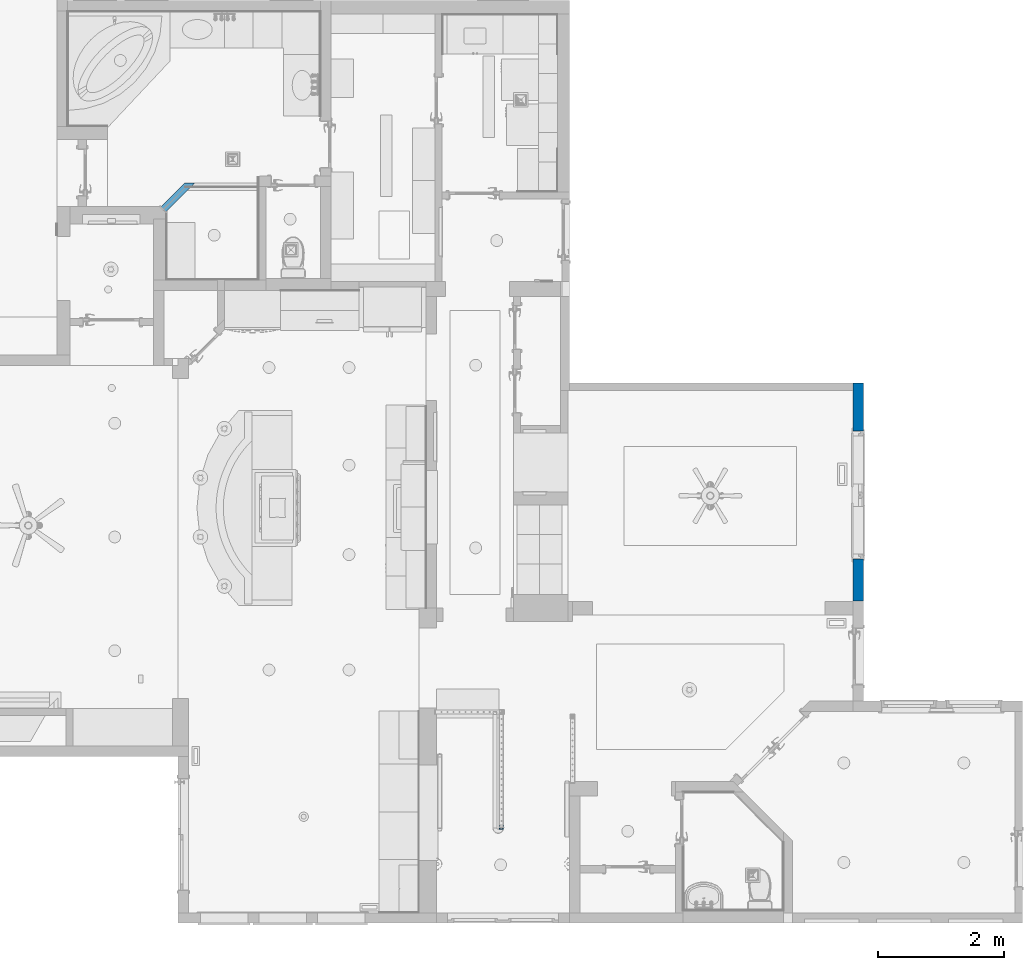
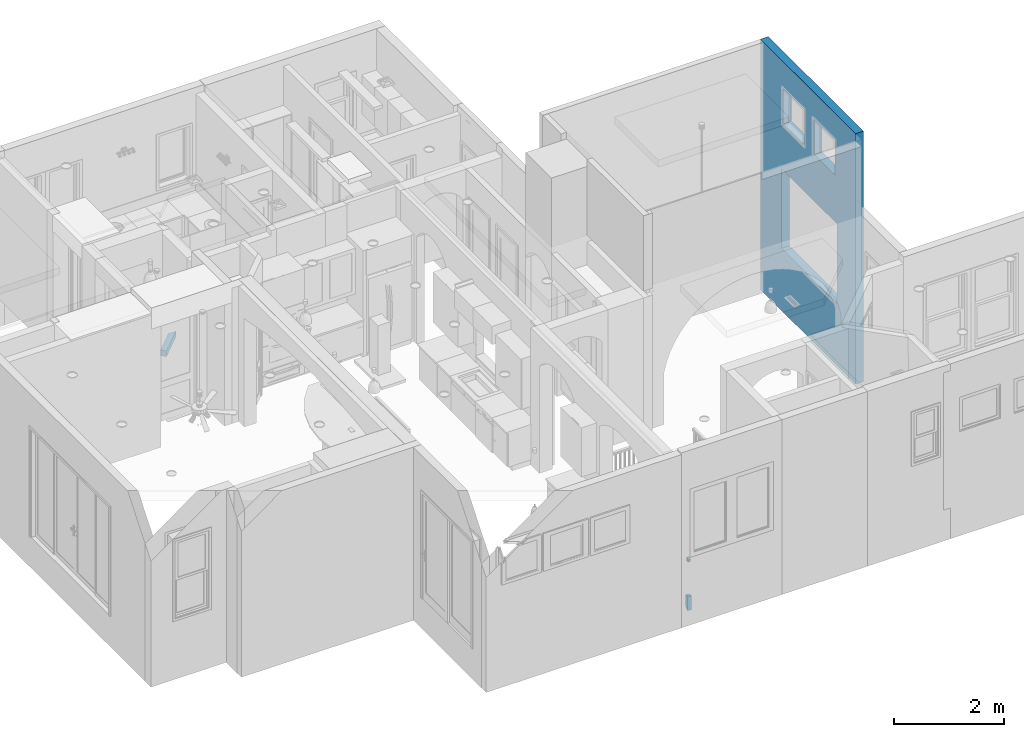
# One storey, part 10 of 77: 2 walls, 1 building element part, 1 element without a shape of its own.
"""IFC2X3 building model written with IfcOpenShell, lengths in inches."""

from ifc_helpers import new_model, entity, si_unit, converted_unit, derived_unit, money_unit, direction, frame, origin_with_axes, place, context, subcontext, project, spatial, faceted_brep, material, type_object, element, aggregate, save


model = new_model("IFC2X3")

# Units and contexts
model_context = context("Model", 3, precision=0.000393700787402, world=origin_with_axes(), true_north=direction((0.0, 1.0)))
body_context = subcontext(model_context, "Body", "Model", "MODEL_VIEW")
ifc_project = project(units=[converted_unit("LENGTHUNIT", "INCH", entity("IfcPositiveLengthMeasure", 0.0254), si_unit("LENGTHUNIT", "METRE"), dimensions=[1, 0, 0, 0, 0, 0, 0]), converted_unit("AREAUNIT", "SQUARE_FOOT", entity("IfcPositiveLengthMeasure", 0.09290304), si_unit("AREAUNIT", "SQUARE_METRE"), dimensions=[2, 0, 0, 0, 0, 0, 0]), si_unit("PLANEANGLEUNIT", "RADIAN"), si_unit("SOLIDANGLEUNIT", "STERADIAN"), money_unit("USD"), converted_unit("TIMEUNIT", "Year", entity("IfcTimeMeasure", 31556926.0), si_unit("TIMEUNIT", "SECOND"), dimensions=[0, 0, 1, 0, 0, 0, 0]), si_unit("MASSUNIT", "GRAM", prefix="KILO"), si_unit("THERMODYNAMICTEMPERATUREUNIT", "DEGREE_CELSIUS"), si_unit("LUMINOUSINTENSITYUNIT", "LUMEN"), si_unit("ENERGYUNIT", "JOULE", prefix="MEGA"), derived_unit("THERMALCONDUCTANCEUNIT", [(si_unit("POWERUNIT", "WATT"), 1), (si_unit("LENGTHUNIT", "METRE"), -1), (si_unit("THERMODYNAMICTEMPERATUREUNIT", "KELVIN"), -1)]), derived_unit("SPECIFICHEATCAPACITYUNIT", [(si_unit("ENERGYUNIT", "JOULE"), 1), (si_unit("MASSUNIT", "GRAM", prefix="KILO"), -1), (si_unit("THERMODYNAMICTEMPERATUREUNIT", "KELVIN"), -1)]), derived_unit("MASSDENSITYUNIT", [(si_unit("MASSUNIT", "GRAM", prefix="KILO"), 1), (si_unit("VOLUMEUNIT", "CUBIC_METRE"), -1)])], contexts=[model_context])

# Site, building, storey
site_placement = place(None, origin_with_axes())
site = spatial("IfcSite", under=ifc_project, at=site_placement, Name="Site", CompositionType="ELEMENT")
building_placement = place(site_placement, origin_with_axes())
building = spatial("IfcBuilding", under=site, at=building_placement, Name="Building", CompositionType="ELEMENT")
storey_placement = place(building_placement, frame((0.0, 0.0, 127.952755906), z_axis=(0.0, 0.0, 1.0), x_axis=(1.0, 0.0, 0.0)))
storey = spatial("IfcBuildingStorey", under=building, at=storey_placement, Name="Second Floor", CompositionType="ELEMENT", Elevation=127.953)

# Walls
ifc_material_1 = material(Name="Generic - Structural")
wall_type_1 = type_object("IfcWallType", Name="Generic Wall 6.5\" 165", PredefinedType="NOTDEFINED")
wall_1_placement = place(storey_placement, frame((904.223659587, 345.969115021, -26.968503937), z_axis=(0.0, 0.0, 1.0), x_axis=(-4.00995822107e-05, -0.999999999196, 0.0)))
element("IfcWall", 1, at=wall_1_placement, inside=storey, type_object=wall_type_1, material=ifc_material_1, Name="SW - 093", context=body_context, shape_type="Brep", body=[
    faceted_brep([(131.832336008, 0.0, 152.952755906), (131.832336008, 0.0, 212.992125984), (0.000319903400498, -0.000108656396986, 212.992125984), (0.000319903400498, -0.000108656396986, 218.897637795), (131.832336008, 0.0, 218.897637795), (131.832336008, 0.0, 219.094488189), (-4.52740614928, 0.0, 219.094488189), (-4.52740614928, 0.0, 0.0), (131.832336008, 0.0, 0.0), (25.5709370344, 0.0, 124.015748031), (105.492196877, 0.0, 124.015748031), (105.492196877, 0.0, 54.3307086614), (25.5709370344, 0.0, 54.3307086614), (28.5715757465, 0.0, 164.960629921), (28.5715757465, 0.0, 195.669291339), (58.492835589, 0.0, 195.669291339), (58.492835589, 0.0, 164.960629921), (102.482180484, -0.000108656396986, 164.960629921), (72.560920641, -0.000108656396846, 164.960629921), (72.560920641, -0.000108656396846, 195.669291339), (102.482180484, -0.000108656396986, 195.669291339), (131.832336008, 0.00196680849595, 218.897637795), (131.832336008, 0.00196680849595, 212.992125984), (131.832336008, 6.5, 152.952755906), (131.832336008, 6.5, 219.094488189), (-4.52755905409, 6.5, 219.094488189), (-4.52755905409, 6.5, 0.0), (131.831500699, 6.5, 0.0), (131.831500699, 6.5, 152.952755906), (25.5709370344, 6.5, 124.015748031), (105.492196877, 6.5, 124.015748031), (105.492196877, 6.5, 54.3307086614), (25.5709370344, 6.5, 54.3307086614), (28.5715757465, 6.5, 195.669291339), (28.5715757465, 6.5, 164.960629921), (58.492835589, 6.5, 195.669291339), (58.492835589, 6.5, 164.960629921), (102.482180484, 6.5, 164.960629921), (72.560920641, 6.5, 164.960629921), (72.560920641, 6.5, 195.669291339), (102.482180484, 6.5, 195.669291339)], [[[0, 1, 2, 3, 4, 5, 6, 7, 8], [9, 10, 11, 12], [13, 14, 15, 16], [17, 18, 19, 20]], [[4, 21, 22, 1, 0, 23, 24, 5]], [[22, 2, 1]], [[3, 2, 22, 21]], [[21, 4, 3]], [[5, 24, 25, 6]], [[7, 6, 25, 26]], [[8, 7, 26, 27]], [[28, 0, 8, 27]], [[10, 9, 29, 30]], [[11, 10, 30, 31]], [[12, 11, 31, 32]], [[9, 12, 32, 29]], [[33, 14, 13, 34]], [[35, 15, 14, 33]], [[36, 16, 15, 35]], [[34, 13, 16, 36]], [[37, 38, 18, 17]], [[38, 39, 19, 18]], [[39, 40, 20, 19]], [[40, 37, 17, 20]], [[23, 0, 28]], [[27, 26, 25, 24, 23, 28], [29, 32, 31, 30], [35, 33, 34, 36], [37, 40, 39, 38]]]),
])
wall_type_2 = type_object("IfcWallType", Name="Generic Wall 4.5\" 114", PredefinedType="NOTDEFINED")
wall_2_placement = place(storey_placement, frame((474.646210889, 457.231238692, 0.0), z_axis=(0.0, 0.0, 1.0), x_axis=(0.707112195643, 0.707101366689, 0.0)))
element("IfcWall", 2, at=wall_2_placement, inside=storey, type_object=wall_type_2, material=ifc_material_1, Name="SW - 137", context=body_context, shape_type="Brep", body=[
    faceted_brep([(0.0, 0.0, 5.0), (0.0, 0.0, 0.0157480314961), (25.7490431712, 0.0, 0.0157480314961), (25.7490431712, 0.0, 5.0), (0.0, 4.5, 5.0), (0.0, 4.5, 0.0157480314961), (21.2489742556, 4.5, 0.0157480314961), (21.2489742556, 4.5, 5.0)], [[[0, 1, 2, 3]], [[4, 5, 1, 0]], [[5, 6, 2, 1]], [[3, 2, 6, 7]], [[0, 3, 7, 4]], [[7, 6, 5, 4]]]),
])

# Railing, building element part
railing_type = type_object("IfcRailingType", Name="Railing Type", PredefinedType="NOTDEFINED")
railing_placement = place(storey_placement, frame((682.459998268, 144.881628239, -56.1089279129), z_axis=(0.0, 0.0, 1.0), x_axis=(-1.0, 0.0, 0.0)))
railing = element("IfcRailing", 3, at=railing_placement, inside=storey, type_object=railing_type, Name="RAILING - 001", PredefinedType="NOTDEFINED")
ifc_material_2 = material(Name="Wood - Structural")
building_element_part_placement = place(railing_placement, origin_with_axes())
building_element_part = element("IfcBuildingElementPart", 4, at=building_element_part_placement, material=ifc_material_2, Name="Wood - Structural", context=body_context, shape_type="Brep", body=[
    faceted_brep([(-0.470433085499, 73.4725267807, 6.64263775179), (-0.472538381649, 73.4744559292, 6.64263775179), (-0.709854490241, 73.4744559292, 6.76577929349), (-0.731887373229, 73.4481981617, 6.79208102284), (-0.608147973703, 73.3348118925, 6.79208102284), (-0.468503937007, 73.4704214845, 6.64263775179), (-0.468503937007, 73.4744559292, 6.64263775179), (-3.46446949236, 73.4744559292, 6.64263775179), (-3.22715338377, 73.4744559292, 6.76577929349), (-3.170900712, 73.4744559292, 6.79208102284), (-3.01881524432, 73.4744559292, 6.85111957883), (-2.83452934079, 73.4744559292, 6.91426029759), (-2.71553065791, 73.4744559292, 6.94929905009), (-2.66796542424, 73.4744559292, 6.96074325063), (-2.51445928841, 73.4744559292, 6.99135270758), (-2.37042772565, 73.4744559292, 7.01392053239), (-2.23299440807, 73.4744559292, 7.0294200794), (-2.0997369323, 73.4744559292, 7.03848323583), (-1.96850393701, 73.4744559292, 7.04146595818), (-1.83727094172, 73.4744559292, 7.03848323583), (-1.70401346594, 73.4744559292, 7.0294200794), (-1.56658014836, 73.4744559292, 7.01392053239), (-1.42254858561, 73.4744559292, 6.99135270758), (-1.26904244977, 73.4744559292, 6.96074325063), (-1.22147721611, 73.4744559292, 6.94929905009), (-1.10247853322, 73.4744559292, 6.91426029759), (-0.918192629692, 73.4744559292, 6.85111957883), (-0.766107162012, 73.4744559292, 6.79208102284), (-0.468503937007, 73.4744559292, -5.04456154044), (-3.46850393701, 73.4744559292, -5.04456154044), (-3.46850393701, 73.4744559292, 6.64263775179), (-0.782649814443, 73.1603100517, 6.94929905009), (-0.890516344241, 73.2591515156, 6.94929905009), (-0.494761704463, 73.2110724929, 6.79208102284), (-0.468503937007, 73.2331053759, 6.76577929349), (-0.468503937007, 73.1768527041, 6.79208102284), (-0.468503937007, 73.0247672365, 6.85111957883), (-0.468503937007, 72.8404813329, 6.91426029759), (-0.468503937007, 72.7214826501, 6.94929905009), (-0.468503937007, 72.6739174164, 6.96074325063), (-0.468503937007, 72.5204112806, 6.99135270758), (-0.468503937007, 72.3763797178, 7.01392053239), (-0.468503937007, 72.2389464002, 7.0294200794), (-0.468503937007, 72.1056889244, 7.03848323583), (-0.468503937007, 71.9744559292, 7.04146595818), (-0.468503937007, 71.8432229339, 7.03848323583), (-0.468503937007, 71.7099654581, 7.0294200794), (-0.468503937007, 71.5725321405, 7.01392053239), (-0.468503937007, 71.4285005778, 6.99135270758), (-0.468503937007, 71.2749944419, 6.96074325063), (-0.468503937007, 71.2274292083, 6.94929905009), (-0.468503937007, 71.1084305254, 6.91426029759), (-0.468503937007, 70.9241446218, 6.85111957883), (-0.468503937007, 70.7720591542, 6.79208102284), (-0.468503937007, 70.7158064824, 6.76577929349), (-0.468503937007, 70.4784903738, 6.64263775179), (-0.468503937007, 70.4744559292, 6.64263775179), (-0.468503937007, 70.4744559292, -2.95543845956), (-3.46657478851, 73.4725267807, 6.64263775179), (-3.32885990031, 73.3348118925, 6.79208102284), (-3.20512050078, 73.4481981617, 6.79208102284), (-2.93042086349, 73.3482156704, 6.94929905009), (-3.04649152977, 73.2591515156, 6.94929905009), (-2.80702942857, 73.426824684, 6.94929905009), (-2.59991820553, 73.3285281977, 7.04456154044), (-2.71553065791, 73.2683441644, 7.04456154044), (-2.47950030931, 73.3784069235, 7.04456154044), (-2.35519342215, 73.4176007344, 7.04456154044), (-2.22794359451, 73.4458113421, 7.04456154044), (-2.09871927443, 73.4628240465, 7.04456154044), (-1.96850393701, 73.468509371, 7.04456154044), (-1.83828859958, 73.4628240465, 7.04456154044), (-1.7090642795, 73.4458113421, 7.04456154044), (-1.58181445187, 73.4176007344, 7.04456154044), (-1.45750756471, 73.3784069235, 7.04456154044), (-1.33708966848, 73.3285281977, 7.04456154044), (-1.12997844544, 73.426824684, 6.94929905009), (-1.22147721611, 73.2683441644, 7.04456154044), (-1.00658701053, 73.3482156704, 6.94929905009), (-3.46850393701, 70.4744559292, -2.95543845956), (-3.46850393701, 70.4784903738, 6.64263775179), (-3.46850393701, 70.7158064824, 6.76577929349), (-3.46850393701, 70.7720591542, 6.79208102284), (-3.46850393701, 70.9241446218, 6.85111957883), (-3.46850393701, 71.1084305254, 6.91426029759), (-3.46850393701, 71.2274292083, 6.94929905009), (-3.46850393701, 71.2749944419, 6.96074325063), (-3.46850393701, 71.4285005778, 6.99135270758), (-3.46850393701, 71.5725321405, 7.01392053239), (-3.46850393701, 71.7099654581, 7.0294200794), (-3.46850393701, 71.8432229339, 7.03848323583), (-3.46850393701, 71.9744559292, 7.04146595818), (-3.46850393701, 72.1056889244, 7.03848323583), (-3.46850393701, 72.2389464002, 7.0294200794), (-3.46850393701, 72.3763797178, 7.01392053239), (-3.46850393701, 72.5204112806, 6.99135270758), (-3.46850393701, 72.6739174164, 6.96074325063), (-3.46850393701, 72.7214826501, 6.94929905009), (-3.46850393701, 72.8404813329, 6.91426029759), (-3.46850393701, 73.0247672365, 6.85111957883), (-3.46850393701, 73.1768527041, 6.79208102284), (-3.46850393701, 73.2331053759, 6.76577929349), (-3.46850393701, 73.4704214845, 6.64263775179), (-3.46850393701, 70.4744559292, 6.64263775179), (-0.683808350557, 73.0524435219, 6.94929905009), (-1.00814489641, 73.118967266, 7.04456154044), (-0.912048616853, 73.0309112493, 7.04456154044), (-0.594744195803, 72.9363728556, 6.94929905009), (-0.516135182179, 72.8129814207, 6.94929905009), (-0.614431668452, 72.6058701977, 7.04456154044), (-0.674615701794, 72.7214826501, 7.04456154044), (-0.564552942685, 72.4854523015, 7.04456154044), (-0.525359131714, 72.3611454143, 7.04456154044), (-0.497148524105, 72.2338955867, 7.04456154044), (-0.480135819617, 72.1046712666, 7.04456154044), (-0.474450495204, 71.9744559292, 7.04456154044), (-0.480135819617, 71.8442405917, 7.04456154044), (-0.497148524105, 71.7150162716, 7.04456154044), (-0.525359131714, 71.587766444, 7.04456154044), (-0.564552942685, 71.4634595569, 7.04456154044), (-0.614431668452, 71.3430416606, 7.04456154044), (-0.516135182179, 71.1359304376, 6.94929905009), (-0.674615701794, 71.2274292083, 7.04456154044), (-0.594744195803, 71.0125390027, 6.94929905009), (-0.494761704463, 70.7378393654, 6.79208102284), (-0.683808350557, 70.8964683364, 6.94929905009), (-0.470433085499, 70.4763850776, 6.64263775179), (-0.608147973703, 70.6140999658, 6.79208102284), (-0.472538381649, 70.4744559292, 6.64263775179), (-0.709854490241, 70.4744559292, 6.76577929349), (-0.766107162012, 70.4744559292, 6.79208102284), (-0.918192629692, 70.4744559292, 6.85111957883), (-1.10247853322, 70.4744559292, 6.91426029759), (-1.22147721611, 70.4744559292, 6.94929905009), (-1.26904244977, 70.4744559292, 6.96074325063), (-1.42254858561, 70.4744559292, 6.99135270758), (-1.56658014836, 70.4744559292, 7.01392053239), (-1.70401346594, 70.4744559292, 7.0294200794), (-1.83727094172, 70.4744559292, 7.03848323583), (-1.96850393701, 70.4744559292, 7.04146595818), (-2.0997369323, 70.4744559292, 7.03848323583), (-2.23299440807, 70.4744559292, 7.0294200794), (-2.37042772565, 70.4744559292, 7.01392053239), (-2.51445928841, 70.4744559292, 6.99135270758), (-2.66796542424, 70.4744559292, 6.96074325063), (-2.71553065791, 70.4744559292, 6.94929905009), (-2.83452934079, 70.4744559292, 6.91426029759), (-3.01881524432, 70.4744559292, 6.85111957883), (-3.170900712, 70.4744559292, 6.79208102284), (-3.22715338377, 70.4744559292, 6.76577929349), (-3.46446949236, 70.4744559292, 6.64263775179), (-3.44224616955, 73.2110724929, 6.79208102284), (-3.15435805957, 73.1603100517, 6.94929905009), (-2.92886297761, 73.118967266, 7.04456154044), (-2.82545778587, 73.1983128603, 7.04456154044), (-3.02495925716, 73.0309112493, 7.04456154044), (-3.11301527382, 72.9348149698, 7.04456154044), (-3.19236086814, 72.831409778, 7.04456154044), (-3.26239217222, 72.7214826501, 7.04456154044), (-3.32257620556, 72.6058701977, 7.04456154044), (-3.37245493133, 72.4854523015, 7.04456154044), (-3.4116487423, 72.3611454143, 7.04456154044), (-3.43985934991, 72.2338955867, 7.04456154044), (-3.4568720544, 72.1046712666, 7.04456154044), (-3.46255737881, 71.9744559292, 7.04456154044), (-3.4568720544, 71.8442405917, 7.04456154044), (-3.43985934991, 71.7150162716, 7.04456154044), (-3.4116487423, 71.587766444, 7.04456154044), (-3.37245493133, 71.4634595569, 7.04456154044), (-3.32257620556, 71.3430416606, 7.04456154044), (-3.26239217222, 71.2274292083, 7.04456154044), (-3.19236086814, 71.1175020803, 7.04456154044), (-3.11301527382, 71.0140968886, 7.04456154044), (-3.02495925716, 70.918000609, 7.04456154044), (-2.92886297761, 70.8299445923, 7.04456154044), (-2.82545778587, 70.750598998, 7.04456154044), (-2.71553065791, 70.6805676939, 7.04456154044), (-2.59991820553, 70.6203836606, 7.04456154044), (-2.47950030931, 70.5705049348, 7.04456154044), (-2.35519342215, 70.5313111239, 7.04456154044), (-2.22794359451, 70.5031005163, 7.04456154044), (-2.09871927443, 70.4860878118, 7.04456154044), (-1.96850393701, 70.4804024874, 7.04456154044), (-1.83828859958, 70.4860878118, 7.04456154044), (-1.7090642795, 70.5031005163, 7.04456154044), (-1.58181445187, 70.5313111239, 7.04456154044), (-1.45750756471, 70.5705049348, 7.04456154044), (-1.33708966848, 70.6203836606, 7.04456154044), (-1.22147721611, 70.6805676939, 7.04456154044), (-1.11155008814, 70.750598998, 7.04456154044), (-1.00814489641, 70.8299445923, 7.04456154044), (-0.912048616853, 70.918000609, 7.04456154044), (-0.823992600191, 71.0140968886, 7.04456154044), (-0.744647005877, 71.1175020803, 7.04456154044), (-0.744647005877, 72.831409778, 7.04456154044), (-0.823992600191, 72.9348149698, 7.04456154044), (-1.11155008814, 73.1983128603, 7.04456154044), (-3.46657478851, 70.4763850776, 6.64263775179), (-3.32885990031, 70.6140999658, 6.79208102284), (-3.44224616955, 70.7378393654, 6.79208102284), (-3.34226367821, 71.0125390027, 6.94929905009), (-3.25319952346, 70.8964683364, 6.94929905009), (-3.42087269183, 71.1359304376, 6.94929905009), (-3.42087269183, 72.8129814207, 6.94929905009), (-3.34226367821, 72.9363728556, 6.94929905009), (-3.25319952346, 73.0524435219, 6.94929905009), (-0.782649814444, 70.7886018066, 6.94929905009), (-0.731887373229, 70.5007136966, 6.79208102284), (-1.00658701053, 70.6006961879, 6.94929905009), (-0.890516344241, 70.6897603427, 6.94929905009), (-1.12997844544, 70.5220871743, 6.94929905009), (-2.80702942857, 70.5220871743, 6.94929905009), (-2.93042086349, 70.6006961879, 6.94929905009), (-3.20512050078, 70.5007136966, 6.79208102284), (-3.04649152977, 70.6897603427, 6.94929905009), (-3.15435805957, 70.7886018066, 6.94929905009)], [[[0, 1, 2, 3, 4]], [[1, 0, 5, 6]], [[7, 8, 9, 10, 11, 12, 13, 14, 15, 16, 17, 18, 19, 20, 21, 22, 23, 24, 25, 26, 27, 2, 1, 6, 28, 29, 30]], [[3, 2, 27]], [[31, 4, 3, 32]], [[5, 0, 4, 33, 34]], [[5, 34, 35, 36, 37, 38, 39, 40, 41, 42, 43, 44, 45, 46, 47, 48, 49, 50, 51, 52, 53, 54, 55, 56, 57, 28, 6]], [[7, 58, 59, 60, 8]], [[60, 9, 8]], [[61, 10, 9, 60, 62]], [[63, 11, 10, 61]], [[63, 12, 11]], [[64, 13, 12, 63, 65]], [[66, 14, 13, 64]], [[67, 15, 14, 66]], [[68, 16, 15, 67]], [[69, 17, 16, 68]], [[70, 18, 17, 69]], [[71, 19, 18, 70]], [[72, 20, 19, 71]], [[73, 21, 20, 72]], [[74, 22, 21, 73]], [[75, 23, 22, 74]], [[76, 24, 23, 75, 77]], [[76, 25, 24]], [[78, 26, 25, 76]], [[3, 27, 26, 78, 32]], [[79, 29, 28, 57]], [[80, 81, 82, 83, 84, 85, 86, 87, 88, 89, 90, 91, 92, 93, 94, 95, 96, 97, 98, 99, 100, 101, 102, 30, 29, 79, 103]], [[58, 7, 30, 102]], [[104, 33, 4, 31]], [[32, 105, 106, 31]], [[33, 35, 34]], [[107, 36, 35, 33, 104]], [[108, 37, 36, 107]], [[108, 38, 37]], [[109, 39, 38, 108, 110]], [[111, 40, 39, 109]], [[112, 41, 40, 111]], [[113, 42, 41, 112]], [[114, 43, 42, 113]], [[115, 44, 43, 114]], [[116, 45, 44, 115]], [[117, 46, 45, 116]], [[118, 47, 46, 117]], [[119, 48, 47, 118]], [[120, 49, 48, 119]], [[121, 50, 49, 120, 122]], [[121, 51, 50]], [[123, 52, 51, 121]], [[124, 53, 52, 123, 125]], [[124, 54, 53]], [[126, 55, 54, 124, 127]], [[55, 126, 128, 56]], [[128, 129, 130, 131, 132, 133, 134, 135, 136, 137, 138, 139, 140, 141, 142, 143, 144, 145, 146, 147, 148, 149, 150, 103, 79, 57, 56]], [[58, 102, 101, 151, 59]], [[62, 60, 59, 152]], [[62, 153, 154, 61]], [[61, 154, 65, 63]], [[72, 71, 70, 69, 68, 67, 66, 64, 65, 154, 153, 155, 156, 157, 158, 159, 160, 161, 162, 163, 164, 165, 166, 167, 168, 169, 170, 171, 172, 173, 174, 175, 176, 177, 178, 179, 180, 181, 182, 183, 184, 185, 186, 187, 188, 189, 190, 191, 192, 193, 122, 120, 119, 118, 117, 116, 115, 114, 113, 112, 111, 109, 110, 194, 195, 106, 105, 196, 77, 75, 74, 73]], [[76, 77, 196, 78]], [[78, 196, 105, 32]], [[80, 197, 198, 199, 81]], [[199, 82, 81]], [[200, 83, 82, 199, 201]], [[202, 84, 83, 200]], [[202, 85, 84]], [[169, 86, 85, 202, 170]], [[168, 87, 86, 169]], [[167, 88, 87, 168]], [[166, 89, 88, 167]], [[165, 90, 89, 166]], [[164, 91, 90, 165]], [[163, 92, 91, 164]], [[162, 93, 92, 163]], [[161, 94, 93, 162]], [[160, 95, 94, 161]], [[159, 96, 95, 160]], [[203, 97, 96, 159, 158]], [[203, 98, 97]], [[204, 99, 98, 203]], [[151, 100, 99, 204, 205]], [[151, 101, 100]], [[197, 80, 103, 150]], [[31, 106, 195, 104]], [[104, 195, 194, 107]], [[107, 194, 110, 108]], [[121, 122, 193, 123]], [[123, 193, 192, 125]], [[206, 127, 124, 125]], [[128, 126, 127, 207, 129]], [[207, 130, 129]], [[208, 131, 130, 207, 209]], [[210, 132, 131, 208]], [[210, 133, 132]], [[187, 134, 133, 210, 188]], [[186, 135, 134, 187]], [[185, 136, 135, 186]], [[184, 137, 136, 185]], [[183, 138, 137, 184]], [[182, 139, 138, 183]], [[181, 140, 139, 182]], [[180, 141, 140, 181]], [[179, 142, 141, 180]], [[178, 143, 142, 179]], [[177, 144, 143, 178]], [[211, 145, 144, 177, 176]], [[211, 146, 145]], [[212, 147, 146, 211]], [[213, 148, 147, 212, 214]], [[213, 149, 148]], [[197, 150, 149, 213, 198]], [[152, 59, 151, 205]], [[152, 155, 153, 62]], [[205, 156, 155, 152]], [[204, 157, 156, 205]], [[203, 158, 157, 204]], [[200, 171, 170, 202]], [[201, 172, 171, 200]], [[215, 173, 172, 201]], [[214, 174, 173, 215]], [[212, 175, 174, 214]], [[211, 176, 175, 212]], [[208, 189, 188, 210]], [[209, 190, 189, 208]], [[206, 191, 190, 209]], [[125, 192, 191, 206]], [[201, 199, 198, 215]], [[209, 207, 127, 206]], [[215, 198, 213, 214]]]),
    faceted_brep([(-2.96850393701, 70.9744559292, 40.1963743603), (-2.96850393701, 70.9744559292, 36.8036256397), (-0.968503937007, 70.9744559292, 36.8036256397), (-0.968503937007, 70.9744559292, 40.1963743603), (-2.96850393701, 72.9744559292, 38.8036256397), (-2.96850393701, 72.9744559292, 36.8036256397), (-0.968503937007, 72.9744559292, 36.8036256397), (-0.968503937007, 72.9744559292, 38.8036256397)], [[[0, 1, 2, 3]], [[4, 5, 1, 0]], [[1, 5, 6, 2]], [[3, 2, 6, 7]], [[0, 3, 7, 4]], [[7, 6, 5, 4]]]),
])
aggregate(railing, [building_element_part])

save(model, "model.ifc")
